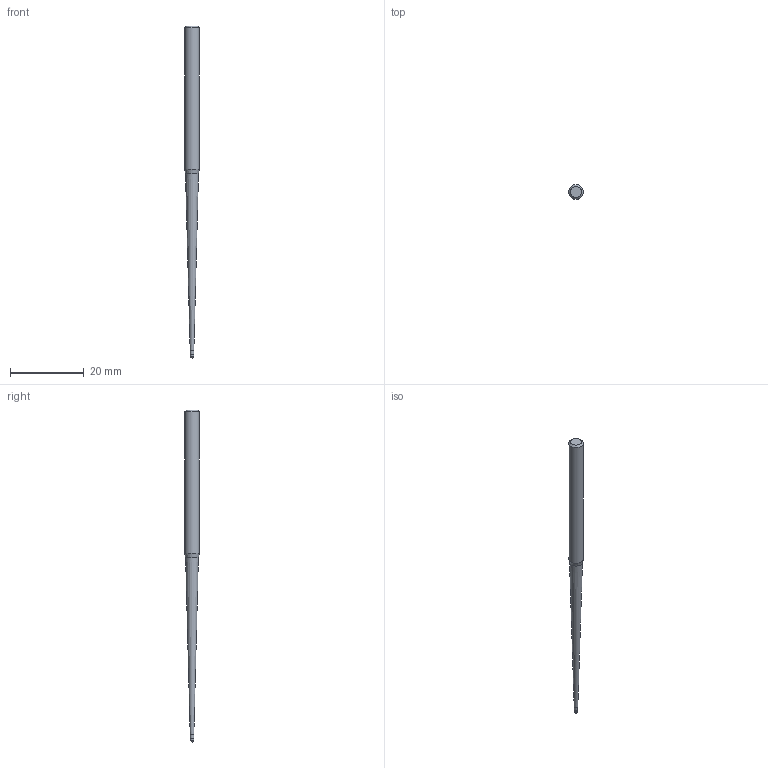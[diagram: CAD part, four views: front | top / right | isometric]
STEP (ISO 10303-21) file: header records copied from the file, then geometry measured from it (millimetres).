
FILE_DESCRIPTION((''),'2;1');
FILE_NAME('C:\Users\nsx150\AppData\Local\Temp\Mastercam 2021\SNAKH10GOD\TEMP.step','2021-10-21T13:32:17',(''),(''),'STEP Write','Mastercam 2021 ... CNC Software, Inc.','');
FILE_SCHEMA(('AUTOMOTIVE_DESIGN'));
Length unit declared in the file: millimetre
Products named in the file (1): None
Bounding box: 4 x 4 x 90 mm (x, y, z)
Volume: 711.4 mm3; surface area: 857.4 mm2
Topology: 2 solids, 2 shells, 10 faces, 16 edges, 9 vertices
Faces by surface type: plane 3, cylinder 3, cone 3, sphere 1
Full cylindrical faces by diameter (mm): 0.985 x1, 1 x1, 4 x1
Entity records: 232 total; most frequent: DIRECTION 40, CARTESIAN_POINT 28, AXIS2_PLACEMENT_3D 20, ORIENTED_EDGE 16, EDGE_LOOP 16, STYLED_ITEM 13, ADVANCED_FACE 10, FACE_BOUND 9
